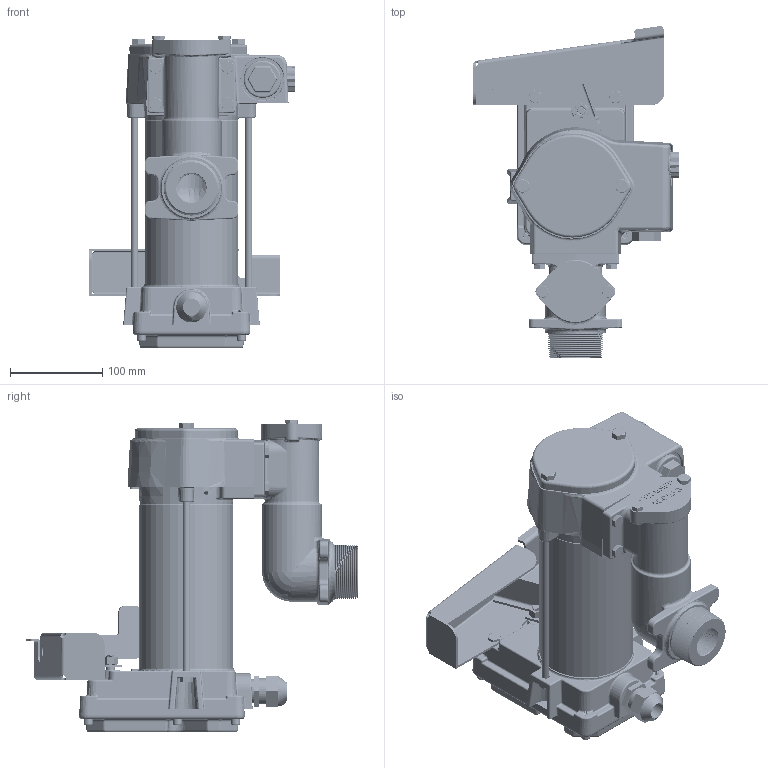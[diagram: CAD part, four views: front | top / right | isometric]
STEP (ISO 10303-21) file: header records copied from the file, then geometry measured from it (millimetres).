
FILE_DESCRIPTION(/* description */ (''),/* implementation_level */ '2;1');
FILE_NAME(/* name */ 'G:\PUBLIC\MKTG\Laura\WEBSITE PUMP MODEL STP\PRO25-012PO.stp',/* time_stamp */ '2017-08-02T16:19:15-05:00',/* author */ ('gdonbak'),/* organization */ (''),/* preprocessor_version */ 'ST-DEVELOPER v16.5',/* originating_system */ 'Autodesk Inventor 2017',/* authorisation */ '');
FILE_SCHEMA (('AUTOMOTIVE_DESIGN { 1 0 10303 214 3 1 1 }'));
Length unit declared in the file: inch
Products named in the file (1): 502000-01_WEBSITE_MODEL_Shrinkwrap_1
Bounding box: 222.47 x 359.63 x 339.04 mm (x, y, z)
Surface area: 701808.6 mm2 (no closed solid volume)
Topology: 0 solids, 36 shells, 3819 faces, 9649 edges, 5951 vertices
Faces by surface type: plane 1270, cylinder 1062, bspline 910, cone 261, torus 189, sphere 127
Full cylindrical faces by diameter (mm): 2.184 x2, 3.175 x1, 4.039 x81, 4.75 x1, 5.105 x2, 5.309 x18, 6.35 x6, 6.528 x24, 6.909 x6, 7.798 x2, 7.806 x1, 7.925 x2, 7.938 x10, 8.331 x4, 8.382 x2, 8.611 x2, 8.738 x2, 9.487 x1, 9.525 x8, 9.538 x1, 10.312 x1, 10.499 x1, 11.176 x1, 11.506 x1, 12.56 x6, 12.7 x2, 16.129 x1, 18.542 x1, 19.05 x1, 19.837 x1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
Entity records: 156570 total; most frequent: CARTESIAN_POINT 71505, ORIENTED_EDGE 17476, DIRECTION 15552, EDGE_CURVE 8736, AXIS2_PLACEMENT_3D 5800, VERTEX_POINT 5524, EDGE_LOOP 4130, LINE 3952
